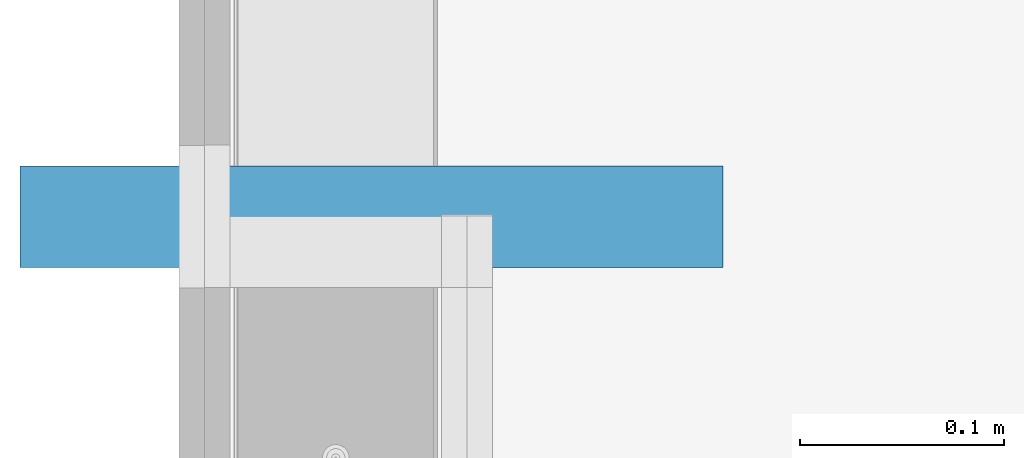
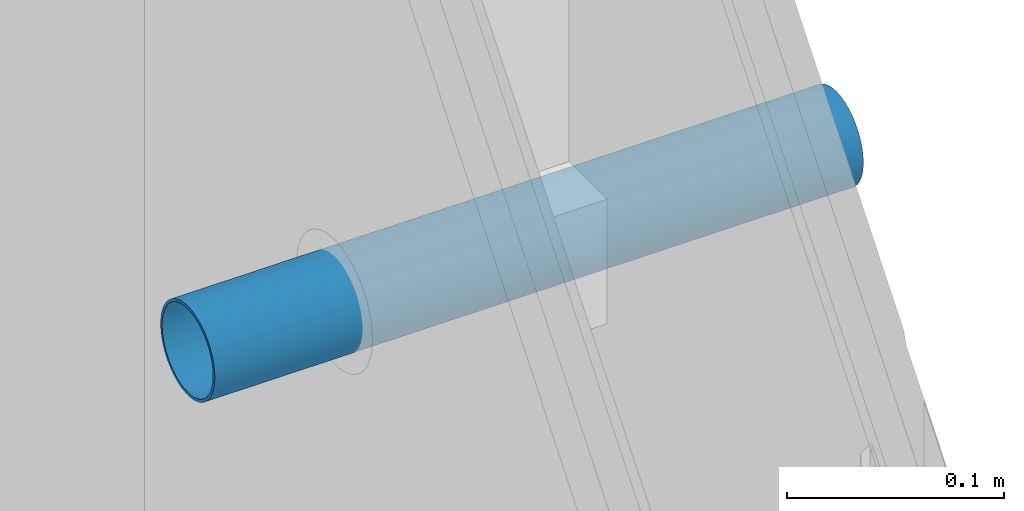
# One storey, part 8 of 92: 1 wall.
"""IFC2X3 building model written with IfcOpenShell, lengths in millimetres."""

from ifc_helpers import new_model, si_unit, frame, origin_with_axes, place, context, subcontext, project, spatial, faceted_brep, material, type_object, element, save


model = new_model("IFC2X3")

# Units and contexts
model_context = context("Model", 3, world=origin_with_axes())
body_context = subcontext(model_context, "Body", "Model", "MODEL_VIEW")
ifc_project = project(units=[si_unit("LENGTHUNIT", "METRE", prefix="MILLI"), si_unit("AREAUNIT", "SQUARE_METRE"), si_unit("VOLUMEUNIT", "CUBIC_METRE")], contexts=[model_context])

# Site, building, storey
site_placement = place(None, origin_with_axes())
site = spatial("IfcSite", under=ifc_project, at=site_placement, Name="Default Site", CompositionType="ELEMENT")
building_placement = place(site_placement, origin_with_axes())
building = spatial("IfcBuilding", under=site, at=building_placement, Name="Default Building", CompositionType="ELEMENT")
storey_placement = place(building_placement, origin_with_axes())
storey = spatial("IfcBuildingStorey", under=building, at=storey_placement, Name="Default Building Storey", CompositionType="ELEMENT", Elevation=0.0)

# Wall
ifc_material = material(Name="M00_Soft_Cloud")
wall_type = type_object("IfcWallType", Name="Przewód instalacyjny - okrągły#1", PredefinedType="NOTDEFINED")
wall_placement = place(storey_placement, frame((-78.03141511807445, 990.2062754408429, 579.9538865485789), z_axis=(0.0, 0.0, 1.0), x_axis=(-4.718447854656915e-16, 1.0, 0.0)))
element("IfcWall", 1, at=wall_placement, inside=storey, type_object=wall_type, material=ifc_material, Name="Przewód instalacyjny - okrągły", context=body_context, shape_type="Brep", body=[
    faceted_brep([(49.84632578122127, -345.0390512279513, 25.2052880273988), (51.416081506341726, -345.0390512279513, 25.05333141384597), (52.97965642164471, -345.0390512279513, 25.201057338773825), (54.530870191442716, -345.0390512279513, 25.446669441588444), (56.0636008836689, -345.0390512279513, 25.789198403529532), (57.571799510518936, -345.0390512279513, 26.227292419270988), (59.04951390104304, -345.0390512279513, 26.759222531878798), (60.490912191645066, -345.0390512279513, 27.382889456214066), (61.89030584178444, -345.0390512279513, 28.09583186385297), (63.242172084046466, -345.0390512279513, 28.89523609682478), (64.54117571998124, -345.0390512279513, 29.777947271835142), (65.7821901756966, -345.0390512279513, 30.74048173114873), (66.96031773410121, -345.0390512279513, 31.779040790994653), (68.0709088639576, -345.0390512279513, 32.889525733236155), (69.1095805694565, -345.0390512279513, 34.0675539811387), (70.07223368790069, -345.0390512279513, 35.30847639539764), (70.95506906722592, -345.0390512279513, 36.607395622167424), (71.7546025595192, -345.0390512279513, 37.95918542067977), (72.46767877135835, -345.0390512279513, 39.358510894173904), (73.0914835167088, -345.0390512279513, 40.799849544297), (73.62355492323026, -345.0390512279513, 42.277513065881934), (74.0617931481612, -345.0390512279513, 43.78566979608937), (74.40446866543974, -345.0390512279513, 45.31836772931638), (74.65022909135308, -345.0390512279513, 46.86955800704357), (74.79810452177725, -345.0390512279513, 48.433118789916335), (74.847511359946, -345.0390512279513, 50.002879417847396), (74.79825461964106, -345.0390512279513, 51.57264476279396), (74.65052869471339, -345.0390512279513, 53.136219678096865), (74.40491659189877, -345.0390512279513, 54.687433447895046), (74.0623876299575, -345.0390512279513, 56.22016414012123), (73.62429361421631, -345.0390512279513, 57.72836276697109), (73.0923635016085, -345.0390512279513, 59.20607715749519), (72.46869657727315, -345.0390512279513, 60.64747544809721), (71.75575416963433, -345.0390512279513, 62.04686909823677), (70.95634993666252, -345.0390512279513, 63.398735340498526), (70.07363876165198, -345.0390512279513, 64.69773897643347), (69.11110430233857, -345.0390512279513, 65.93875343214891), (68.07254524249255, -345.0390512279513, 67.11688099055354), (66.96206030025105, -345.0390512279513, 68.22747212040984), (65.78403205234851, -345.0390512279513, 69.26614382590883), (64.54310963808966, -345.0390512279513, 70.22879694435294), (63.24419041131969, -345.0390512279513, 71.11163232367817), (61.892400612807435, -345.0390512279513, 71.91116581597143), (60.493075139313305, -345.0390512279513, 72.62424202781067), (59.05173648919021, -345.0390512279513, 73.2480467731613), (57.574072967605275, -345.0390512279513, 73.78011817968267), (56.06591623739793, -345.0390512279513, 74.21835640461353), (54.533218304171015, -345.0390512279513, 74.56103192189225), (52.982028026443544, -345.0390512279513, 74.80679234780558), (51.41846724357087, -345.0390512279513, 74.95466777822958), (49.84870661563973, -345.0390512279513, 75.00407461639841), (48.27894127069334, -345.0390512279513, 74.95481787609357), (46.71536635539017, -345.0390512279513, 74.8070919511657), (45.16415258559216, -345.0390512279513, 74.56147984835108), (43.63142189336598, -345.0390512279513, 74.2189508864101), (42.12322326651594, -345.0390512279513, 73.78085687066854), (40.64550887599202, -345.0390512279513, 73.24892675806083), (39.20411058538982, -345.0390512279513, 72.62525983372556), (37.80471693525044, -345.0390512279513, 71.91231742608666), (36.45285069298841, -345.0390512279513, 71.11291319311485), (35.153847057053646, -345.0390512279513, 70.23020201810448), (33.91283260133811, -345.0390512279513, 69.26766755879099), (32.734705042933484, -345.0390512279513, 68.22910849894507), (31.62411391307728, -345.0390512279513, 67.11862355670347), (30.58544220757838, -345.0390512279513, 65.94059530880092), (29.622789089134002, -345.0390512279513, 64.69967289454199), (28.739953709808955, -345.0390512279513, 63.4007536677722), (27.940420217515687, -345.0390512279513, 62.04896386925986), (27.227344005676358, -345.0390512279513, 60.64963839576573), (26.603539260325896, -345.0390512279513, 59.208299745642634), (26.071467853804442, -345.0390512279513, 57.73063622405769), (25.633229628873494, -345.0390512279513, 56.22247949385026), (25.290554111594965, -345.0390512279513, 54.68978156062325), (25.044793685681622, -345.0390512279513, 53.13859128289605), (24.896918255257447, -345.0390512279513, 51.575030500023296), (24.84751141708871, -345.0390512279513, 50.00526987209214), (24.896768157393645, -345.0390512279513, 48.43550452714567), (25.044494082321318, -345.0390512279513, 46.871929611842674), (25.290106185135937, -345.0390512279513, 45.32071584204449), (25.632635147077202, -345.0390512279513, 43.78798514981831), (26.07072916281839, -345.0390512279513, 42.27978652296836), (26.6026592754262, -345.0390512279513, 40.802072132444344), (27.22632619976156, -345.0390512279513, 39.360673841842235), (27.93926860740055, -345.0390512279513, 37.96128019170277), (28.738672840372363, -345.0390512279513, 36.60941394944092), (29.621384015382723, -345.0390512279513, 35.310410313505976), (30.58391847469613, -345.0390512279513, 34.069395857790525), (31.622477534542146, -345.0390512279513, 32.89126829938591), (32.73296247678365, -345.0390512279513, 31.780677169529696), (33.910990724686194, -345.0390512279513, 30.742005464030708), (35.15191313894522, -345.0390512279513, 29.77935234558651), (36.45083236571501, -345.0390512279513, 28.89651696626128), (37.802622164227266, -345.0390512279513, 28.096983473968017), (39.201947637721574, -345.0390512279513, 27.383907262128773), (40.64328628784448, -345.0390512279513, 26.760102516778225), (42.120949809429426, -345.0390512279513, 26.22803111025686), (43.62910653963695, -345.0390512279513, 25.789792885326), (45.161804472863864, -345.0390512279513, 25.44711736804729), (46.71299475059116, -345.0390512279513, 25.201356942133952), (48.27655553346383, -345.0390512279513, 25.053481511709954), (48.274965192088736, -345.0390512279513, 26.56032545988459), (46.90115859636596, -345.0390512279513, 26.69025468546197), (45.44308568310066, -345.0390512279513, 26.921262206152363), (44.002395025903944, -345.0390512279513, 27.243367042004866), (42.58477237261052, -345.0390512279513, 27.655297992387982), (41.19581243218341, -345.0390512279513, 28.155429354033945), (39.8409967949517, -345.0390512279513, 28.74178733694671), (38.52567229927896, -345.0390512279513, 29.412057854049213), (37.255029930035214, -345.0390512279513, 30.16359565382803), (36.034084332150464, -345.0390512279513, 30.993434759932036), (34.86765402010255, -345.0390512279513, 31.89830017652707), (33.76034236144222, -345.0390512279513, 32.87462081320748), (32.716519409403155, -345.0390512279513, 33.91854357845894), (31.740304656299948, -345.0390512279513, 35.02594858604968), (30.835550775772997, -345.0390512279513, 36.19246541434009), (30.00582841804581, -345.0390512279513, 37.413490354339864), (29.254412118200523, -345.0390512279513, 38.68420457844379), (28.584267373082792, -345.0390512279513, 39.999593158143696), (27.998038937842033, -345.0390512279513, 41.35446485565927), (27.498040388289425, -345.0390512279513, 42.7434726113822), (27.086244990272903, -345.0390512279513, 44.16113464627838), (26.76427791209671, -345.0390512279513, 45.6018560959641), (26.53340981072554, -345.0390512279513, 47.05995109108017), (26.39455181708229, -345.0390512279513, 48.52966519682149), (26.348251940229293, -345.0390512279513, 50.005198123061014), (26.394692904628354, -345.0390512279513, 51.480726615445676), (26.533691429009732, -345.0390512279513, 52.95042743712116), (26.764698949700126, -345.0390512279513, 54.40850035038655), (27.08680378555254, -345.0390512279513, 55.84919100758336), (27.498734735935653, -345.0390512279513, 57.266813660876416), (27.99886609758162, -345.0390512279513, 58.65577360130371), (28.58522408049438, -345.0390512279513, 60.01058923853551), (29.255494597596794, -345.0390512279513, 61.32591373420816), (30.007032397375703, -345.0390512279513, 62.59655610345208), (30.83687150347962, -345.0390512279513, 63.81750170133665), (31.741736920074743, -345.0390512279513, 64.98393201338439), (32.71805755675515, -345.0390512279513, 66.0912436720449), (33.76198032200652, -345.0390512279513, 67.13506662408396), (34.86938532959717, -345.0390512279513, 68.11128137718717), (36.035902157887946, -345.0390512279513, 69.01603525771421), (37.256927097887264, -345.0390512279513, 69.84575761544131), (38.52764132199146, -345.0390512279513, 70.59717391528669), (39.84302990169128, -345.0390512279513, 71.26731866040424), (41.19790159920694, -345.0390512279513, 71.85354709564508), (42.586909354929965, -345.0390512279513, 72.3535456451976), (44.00457138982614, -345.0390512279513, 72.7653410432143), (45.44529283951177, -345.0390512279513, 73.08730812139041), (46.90338783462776, -345.0390512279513, 73.3181762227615), (48.37310194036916, -345.0390512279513, 73.45703421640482), (49.8486348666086, -345.0390512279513, 73.50333409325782), (51.324163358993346, -345.0390512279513, 73.45689312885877), (52.79386418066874, -345.0390512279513, 73.31789460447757), (54.25193709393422, -345.0390512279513, 73.08688708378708), (55.692627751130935, -345.0390512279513, 72.76478224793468), (57.110250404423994, -345.0390512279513, 72.35285129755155), (58.49921034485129, -345.0390512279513, 71.8527199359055), (59.85402598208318, -345.0390512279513, 71.26636195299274), (61.16935047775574, -345.0390512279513, 70.59609143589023), (62.43999284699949, -345.0390512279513, 69.84455363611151), (63.660938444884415, -345.0390512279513, 69.01471453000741), (64.82736875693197, -345.0390512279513, 68.10984911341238), (65.93468041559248, -345.0390512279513, 67.13352847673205), (66.97850336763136, -345.0390512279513, 66.0896057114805), (67.95471812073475, -345.0390512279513, 64.98220070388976), (68.85947200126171, -345.0390512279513, 63.81568387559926), (69.68919435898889, -345.0390512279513, 62.59465893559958), (70.44061065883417, -345.0390512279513, 61.32394471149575), (71.11075540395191, -345.0390512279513, 60.00855613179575), (71.69698383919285, -345.0390512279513, 58.653684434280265), (72.19698238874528, -345.0390512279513, 57.26467667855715), (72.60877778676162, -345.0390512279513, 55.84701464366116), (72.93074486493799, -345.0390512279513, 54.406293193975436), (73.16161296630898, -345.0390512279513, 52.948198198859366), (73.3004709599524, -345.0390512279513, 51.47848409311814), (73.3467708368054, -345.0390512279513, 50.00295116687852), (73.30032987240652, -345.0390512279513, 48.52742267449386), (73.16133134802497, -345.0390512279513, 47.05772185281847), (72.93032382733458, -345.0390512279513, 45.59964893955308), (72.60821899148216, -345.0390512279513, 44.158958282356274), (72.19628804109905, -345.0390512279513, 42.741335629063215), (71.69615667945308, -345.0390512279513, 41.35237568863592), (71.1097986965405, -345.0390512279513, 39.99756005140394), (70.4395281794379, -345.0390512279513, 38.68223555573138), (69.68799037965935, -345.0390512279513, 37.411593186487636), (68.85815127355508, -345.0390512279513, 36.19064758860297), (67.95328585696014, -345.0390512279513, 35.02421727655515), (66.97696522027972, -345.0390512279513, 33.91690561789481), (65.93304245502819, -345.0390512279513, 32.87308266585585), (64.82563744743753, -345.0390512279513, 31.896867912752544), (63.65912061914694, -345.0390512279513, 30.992114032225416), (62.43809567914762, -345.0390512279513, 30.162391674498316), (61.16738145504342, -345.0390512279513, 29.410975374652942), (59.8519928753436, -345.0390512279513, 28.7408306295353), (58.49712117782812, -345.0390512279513, 28.15460219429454), (57.108113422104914, -345.0390512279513, 27.65460364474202), (55.690451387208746, -345.0390512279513, 27.242808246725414), (54.24972993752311, -345.0390512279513, 26.920841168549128), (52.791634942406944, -345.0390512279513, 26.689973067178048), (51.417815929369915, -345.0390512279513, 26.560175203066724), (49.846397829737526, -345.0390512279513, 26.712292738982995), (51.416081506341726, -9.587886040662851e-14, 25.05333141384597), (49.84632578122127, -9.587886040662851e-14, 25.2052880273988), (48.27655553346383, -9.587886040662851e-14, 25.053481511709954), (46.71299475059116, -9.517386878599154e-14, 25.201356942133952), (45.161804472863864, -9.517386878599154e-14, 25.44711736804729), (43.62910653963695, -9.517386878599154e-14, 25.789792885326), (42.120949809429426, -9.517386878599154e-14, 26.22803111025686), (40.64328628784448, -9.446887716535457e-14, 26.760102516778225), (39.201947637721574, -9.446887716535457e-14, 27.383907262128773), (37.802622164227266, -9.446887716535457e-14, 28.096983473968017), (36.45083236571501, -9.446887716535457e-14, 28.89651696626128), (35.15191313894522, -9.376388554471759e-14, 29.77935234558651), (33.910990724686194, -9.376388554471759e-14, 30.742005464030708), (32.73296247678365, -9.376388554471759e-14, 31.780677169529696), (31.622477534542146, -9.376388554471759e-14, 32.89126829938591), (30.58391847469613, -9.376388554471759e-14, 34.069395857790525), (29.621384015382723, -9.376388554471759e-14, 35.310410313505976), (28.738672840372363, -9.305889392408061e-14, 36.60941394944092), (27.93926860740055, -9.305889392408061e-14, 37.96128019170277), (27.22632619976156, -9.305889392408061e-14, 39.360673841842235), (26.6026592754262, -9.305889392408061e-14, 40.802072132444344), (26.07072916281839, -9.305889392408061e-14, 42.27978652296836), (25.632635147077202, -9.305889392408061e-14, 43.78798514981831), (25.290106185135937, -9.305889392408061e-14, 45.32071584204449), (25.044494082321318, -9.305889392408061e-14, 46.871929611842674), (24.896768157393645, -9.305889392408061e-14, 48.43550452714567), (24.84751141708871, -9.305889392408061e-14, 50.00526987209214), (24.896918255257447, -9.305889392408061e-14, 51.575030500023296), (25.044793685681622, -9.305889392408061e-14, 53.13859128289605), (25.290554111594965, -9.305889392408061e-14, 54.68978156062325), (25.633229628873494, -9.305889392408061e-14, 56.22247949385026), (26.071467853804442, -9.305889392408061e-14, 57.73063622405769), (26.603539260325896, -9.305889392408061e-14, 59.208299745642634), (27.227344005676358, -9.305889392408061e-14, 60.64963839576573), (27.940420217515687, -9.305889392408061e-14, 62.04896386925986), (28.739953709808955, -9.305889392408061e-14, 63.4007536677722), (29.622789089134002, -9.376388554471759e-14, 64.69967289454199), (30.58544220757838, -9.376388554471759e-14, 65.94059530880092), (31.62411391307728, -9.376388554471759e-14, 67.11862355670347), (32.734705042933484, -9.376388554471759e-14, 68.22910849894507), (33.91283260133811, -9.376388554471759e-14, 69.26766755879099), (35.153847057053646, -9.376388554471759e-14, 70.23020201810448), (36.45285069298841, -9.446887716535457e-14, 71.11291319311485), (37.80471693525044, -9.446887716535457e-14, 71.91231742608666), (39.20411058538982, -9.446887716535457e-14, 72.62525983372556), (40.64550887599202, -9.446887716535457e-14, 73.24892675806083), (42.12322326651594, -9.517386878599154e-14, 73.78085687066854), (43.63142189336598, -9.517386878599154e-14, 74.2189508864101), (45.16415258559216, -9.517386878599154e-14, 74.56147984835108), (46.71536635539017, -9.517386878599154e-14, 74.8070919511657), (48.27894127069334, -9.587886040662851e-14, 74.95481787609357), (49.84870661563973, -9.587886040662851e-14, 75.00407461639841), (51.41846724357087, -9.587886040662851e-14, 74.95466777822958), (52.982028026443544, -9.587886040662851e-14, 74.80679234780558), (54.533218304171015, -9.658385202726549e-14, 74.56103192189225), (56.06591623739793, -9.658385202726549e-14, 74.21835640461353), (57.574072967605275, -9.658385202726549e-14, 73.78011817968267), (59.05173648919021, -9.658385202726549e-14, 73.2480467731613), (60.493075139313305, -9.658385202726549e-14, 72.62424202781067), (61.892400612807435, -9.728884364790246e-14, 71.91116581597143), (63.24419041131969, -9.728884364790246e-14, 71.11163232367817), (64.54310963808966, -9.728884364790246e-14, 70.22879694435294), (65.78403205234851, -9.728884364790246e-14, 69.26614382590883), (66.96206030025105, -9.728884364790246e-14, 68.22747212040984), (68.07254524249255, -9.799383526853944e-14, 67.11688099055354), (69.11110430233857, -9.799383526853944e-14, 65.93875343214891), (70.07363876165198, -9.799383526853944e-14, 64.69773897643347), (70.95634993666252, -9.799383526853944e-14, 63.398735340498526), (71.75575416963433, -9.799383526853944e-14, 62.04686909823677), (72.46869657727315, -9.799383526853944e-14, 60.64747544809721), (73.0923635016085, -9.799383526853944e-14, 59.20607715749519), (73.62429361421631, -9.869882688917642e-14, 57.72836276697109), (74.0623876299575, -9.869882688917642e-14, 56.22016414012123), (74.40491659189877, -9.869882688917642e-14, 54.687433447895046), (74.65052869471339, -9.869882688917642e-14, 53.136219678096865), (74.79825461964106, -9.869882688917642e-14, 51.57264476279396), (74.847511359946, -9.869882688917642e-14, 50.002879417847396), (74.79810452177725, -9.869882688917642e-14, 48.433118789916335), (74.65022909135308, -9.869882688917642e-14, 46.86955800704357), (74.40446866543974, -9.869882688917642e-14, 45.31836772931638), (74.0617931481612, -9.869882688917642e-14, 43.78566979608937), (73.62355492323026, -9.869882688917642e-14, 42.277513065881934), (73.0914835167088, -9.799383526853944e-14, 40.799849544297), (72.46767877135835, -9.799383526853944e-14, 39.358510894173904), (71.7546025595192, -9.799383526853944e-14, 37.95918542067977), (70.95506906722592, -9.799383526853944e-14, 36.607395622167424), (70.07223368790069, -9.799383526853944e-14, 35.30847639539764), (69.1095805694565, -9.799383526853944e-14, 34.0675539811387), (68.0709088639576, -9.799383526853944e-14, 32.889525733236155), (66.96031773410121, -9.728884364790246e-14, 31.779040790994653), (65.7821901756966, -9.728884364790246e-14, 30.74048173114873), (64.54117571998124, -9.728884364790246e-14, 29.777947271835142), (63.242172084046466, -9.728884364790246e-14, 28.89523609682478), (61.89030584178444, -9.728884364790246e-14, 28.09583186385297), (60.490912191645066, -9.658385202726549e-14, 27.382889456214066), (59.04951390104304, -9.658385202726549e-14, 26.759222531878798), (57.571799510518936, -9.658385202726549e-14, 26.227292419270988), (56.0636008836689, -9.658385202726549e-14, 25.789198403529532), (54.530870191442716, -9.658385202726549e-14, 25.446669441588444), (52.97965642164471, -9.587886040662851e-14, 25.201057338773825), (46.90115859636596, -9.517386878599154e-14, 26.69025468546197), (48.274965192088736, -9.587886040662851e-14, 26.56032545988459), (49.846397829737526, -9.587886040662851e-14, 26.712292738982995), (51.417815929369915, -9.587886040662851e-14, 26.560175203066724), (52.791634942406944, -9.587886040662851e-14, 26.689973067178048), (54.24972993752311, -9.587886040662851e-14, 26.920841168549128), (55.690451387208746, -9.658385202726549e-14, 27.242808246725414), (57.108113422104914, -9.658385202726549e-14, 27.65460364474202), (58.49712117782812, -9.658385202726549e-14, 28.15460219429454), (59.8519928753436, -9.658385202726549e-14, 28.7408306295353), (61.16738145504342, -9.728884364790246e-14, 29.410975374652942), (62.43809567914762, -9.728884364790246e-14, 30.162391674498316), (63.65912061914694, -9.728884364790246e-14, 30.992114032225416), (64.82563744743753, -9.728884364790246e-14, 31.896867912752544), (65.93304245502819, -9.728884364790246e-14, 32.87308266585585), (66.97696522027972, -9.799383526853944e-14, 33.91690561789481), (67.95328585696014, -9.799383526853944e-14, 35.02421727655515), (68.85815127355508, -9.799383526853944e-14, 36.19064758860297), (69.68799037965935, -9.799383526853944e-14, 37.411593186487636), (70.4395281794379, -9.799383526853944e-14, 38.68223555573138), (71.1097986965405, -9.799383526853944e-14, 39.99756005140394), (71.69615667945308, -9.799383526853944e-14, 41.35237568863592), (72.19628804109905, -9.799383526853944e-14, 42.741335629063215), (72.60821899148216, -9.799383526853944e-14, 44.158958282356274), (72.93032382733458, -9.799383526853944e-14, 45.59964893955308), (73.16133134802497, -9.799383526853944e-14, 47.05772185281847), (73.30032987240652, -9.799383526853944e-14, 48.52742267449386), (73.3467708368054, -9.869882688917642e-14, 50.00295116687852), (73.3004709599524, -9.799383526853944e-14, 51.47848409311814), (73.16161296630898, -9.799383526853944e-14, 52.948198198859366), (72.93074486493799, -9.799383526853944e-14, 54.406293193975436), (72.60877778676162, -9.799383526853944e-14, 55.84701464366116), (72.19698238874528, -9.799383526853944e-14, 57.26467667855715), (71.69698383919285, -9.799383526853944e-14, 58.653684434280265), (71.11075540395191, -9.799383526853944e-14, 60.00855613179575), (70.44061065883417, -9.799383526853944e-14, 61.32394471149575), (69.68919435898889, -9.799383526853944e-14, 62.59465893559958), (68.85947200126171, -9.799383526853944e-14, 63.81568387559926), (67.95471812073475, -9.799383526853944e-14, 64.98220070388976), (66.97850336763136, -9.799383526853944e-14, 66.0896057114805), (65.93468041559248, -9.728884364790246e-14, 67.13352847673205), (64.82736875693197, -9.728884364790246e-14, 68.10984911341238), (63.660938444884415, -9.728884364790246e-14, 69.01471453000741), (62.43999284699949, -9.728884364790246e-14, 69.84455363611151), (61.16935047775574, -9.728884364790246e-14, 70.59609143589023), (59.85402598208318, -9.658385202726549e-14, 71.26636195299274), (58.49921034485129, -9.658385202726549e-14, 71.8527199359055), (57.110250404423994, -9.658385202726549e-14, 72.35285129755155), (55.692627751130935, -9.658385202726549e-14, 72.76478224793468), (54.25193709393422, -9.587886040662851e-14, 73.08688708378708), (52.79386418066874, -9.587886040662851e-14, 73.31789460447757), (51.324163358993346, -9.587886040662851e-14, 73.45689312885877), (49.8486348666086, -9.587886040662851e-14, 73.50333409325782), (48.37310194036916, -9.587886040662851e-14, 73.45703421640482), (46.90338783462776, -9.517386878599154e-14, 73.3181762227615), (45.44529283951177, -9.517386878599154e-14, 73.08730812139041), (44.00457138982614, -9.517386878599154e-14, 72.7653410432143), (42.586909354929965, -9.517386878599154e-14, 72.3535456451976), (41.19790159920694, -9.446887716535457e-14, 71.85354709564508), (39.84302990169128, -9.446887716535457e-14, 71.26731866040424), (38.52764132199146, -9.446887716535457e-14, 70.59717391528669), (37.256927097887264, -9.446887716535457e-14, 69.84575761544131), (36.035902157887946, -9.446887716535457e-14, 69.01603525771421), (34.86938532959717, -9.376388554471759e-14, 68.11128137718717), (33.76198032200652, -9.376388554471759e-14, 67.13506662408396), (32.71805755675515, -9.376388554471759e-14, 66.0912436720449), (31.741736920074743, -9.376388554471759e-14, 64.98393201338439), (30.83687150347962, -9.376388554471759e-14, 63.81750170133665), (30.007032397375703, -9.376388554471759e-14, 62.59655610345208), (29.255494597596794, -9.376388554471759e-14, 61.32591373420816), (28.58522408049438, -9.305889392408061e-14, 60.01058923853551), (27.99886609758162, -9.305889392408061e-14, 58.65577360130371), (27.498734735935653, -9.305889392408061e-14, 57.266813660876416), (27.08680378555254, -9.305889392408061e-14, 55.84919100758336), (26.764698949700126, -9.305889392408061e-14, 54.40850035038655), (26.533691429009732, -9.305889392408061e-14, 52.95042743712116), (26.394692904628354, -9.305889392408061e-14, 51.480726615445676), (26.348251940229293, -9.305889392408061e-14, 50.005198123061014), (26.39455181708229, -9.305889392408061e-14, 48.52966519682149), (26.53340981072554, -9.305889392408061e-14, 47.05995109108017), (26.76427791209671, -9.305889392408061e-14, 45.6018560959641), (27.086244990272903, -9.305889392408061e-14, 44.16113464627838), (27.498040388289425, -9.305889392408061e-14, 42.7434726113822), (27.998038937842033, -9.305889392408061e-14, 41.35446485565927), (28.584267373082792, -9.305889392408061e-14, 39.999593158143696), (29.254412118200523, -9.376388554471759e-14, 38.68420457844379), (30.00582841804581, -9.376388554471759e-14, 37.413490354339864), (30.835550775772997, -9.376388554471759e-14, 36.19246541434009), (31.740304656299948, -9.376388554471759e-14, 35.02594858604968), (32.716519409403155, -9.376388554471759e-14, 33.91854357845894), (33.76034236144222, -9.376388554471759e-14, 32.87462081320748), (34.86765402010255, -9.376388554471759e-14, 31.89830017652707), (36.034084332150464, -9.446887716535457e-14, 30.993434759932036), (37.255029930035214, -9.446887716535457e-14, 30.16359565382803), (38.52567229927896, -9.446887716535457e-14, 29.412057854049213), (39.8409967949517, -9.446887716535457e-14, 28.74178733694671), (41.19581243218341, -9.446887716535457e-14, 28.155429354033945), (42.58477237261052, -9.517386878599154e-14, 27.655297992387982), (44.002395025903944, -9.517386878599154e-14, 27.243367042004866), (45.44308568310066, -9.517386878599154e-14, 26.921262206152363)], [[[0, 1, 2, 3, 4, 5, 6, 7, 8, 9, 10, 11, 12, 13, 14, 15, 16, 17, 18, 19, 20, 21, 22, 23, 24, 25, 26, 27, 28, 29, 30, 31, 32, 33, 34, 35, 36, 37, 38, 39, 40, 41, 42, 43, 44, 45, 46, 47, 48, 49, 50, 51, 52, 53, 54, 55, 56, 57, 58, 59, 60, 61, 62, 63, 64, 65, 66, 67, 68, 69, 70, 71, 72, 73, 74, 75, 76, 77, 78, 79, 80, 81, 82, 83, 84, 85, 86, 87, 88, 89, 90, 91, 92, 93, 94, 95, 96, 97, 98, 99], [100, 101, 102, 103, 104, 105, 106, 107, 108, 109, 110, 111, 112, 113, 114, 115, 116, 117, 118, 119, 120, 121, 122, 123, 124, 125, 126, 127, 128, 129, 130, 131, 132, 133, 134, 135, 136, 137, 138, 139, 140, 141, 142, 143, 144, 145, 146, 147, 148, 149, 150, 151, 152, 153, 154, 155, 156, 157, 158, 159, 160, 161, 162, 163, 164, 165, 166, 167, 168, 169, 170, 171, 172, 173, 174, 175, 176, 177, 178, 179, 180, 181, 182, 183, 184, 185, 186, 187, 188, 189, 190, 191, 192, 193, 194, 195, 196, 197, 198, 199]], [[200, 201, 202, 203, 204, 205, 206, 207, 208, 209, 210, 211, 212, 213, 214, 215, 216, 217, 218, 219, 220, 221, 222, 223, 224, 225, 226, 227, 228, 229, 230, 231, 232, 233, 234, 235, 236, 237, 238, 239, 240, 241, 242, 243, 244, 245, 246, 247, 248, 249, 250, 251, 252, 253, 254, 255, 256, 257, 258, 259, 260, 261, 262, 263, 264, 265, 266, 267, 268, 269, 270, 271, 272, 273, 274, 275, 276, 277, 278, 279, 280, 281, 282, 283, 284, 285, 286, 287, 288, 289, 290, 291, 292, 293, 294, 295, 296, 297, 298, 299], [300, 301, 302, 303, 304, 305, 306, 307, 308, 309, 310, 311, 312, 313, 314, 315, 316, 317, 318, 319, 320, 321, 322, 323, 324, 325, 326, 327, 328, 329, 330, 331, 332, 333, 334, 335, 336, 337, 338, 339, 340, 341, 342, 343, 344, 345, 346, 347, 348, 349, 350, 351, 352, 353, 354, 355, 356, 357, 358, 359, 360, 361, 362, 363, 364, 365, 366, 367, 368, 369, 370, 371, 372, 373, 374, 375, 376, 377, 378, 379, 380, 381, 382, 383, 384, 385, 386, 387, 388, 389, 390, 391, 392, 393, 394, 395, 396, 397, 398, 399]], [[1, 0, 201, 200]], [[2, 1, 200, 299]], [[3, 2, 299, 298]], [[4, 3, 298, 297]], [[5, 4, 297, 296]], [[6, 5, 296, 295]], [[7, 6, 295, 294]], [[8, 7, 294, 293]], [[9, 8, 293, 292]], [[10, 9, 292, 291]], [[11, 10, 291, 290]], [[12, 11, 290, 289]], [[13, 12, 289, 288]], [[14, 13, 288, 287]], [[15, 14, 287, 286]], [[16, 15, 286, 285]], [[17, 16, 285, 284]], [[18, 17, 284, 283]], [[19, 18, 283, 282]], [[20, 19, 282, 281]], [[21, 20, 281, 280]], [[22, 21, 280, 279]], [[23, 22, 279, 278]], [[24, 23, 278, 277]], [[25, 24, 277, 276]], [[26, 25, 276, 275]], [[27, 26, 275, 274]], [[28, 27, 274, 273]], [[29, 28, 273, 272]], [[30, 29, 272, 271]], [[31, 30, 271, 270]], [[32, 31, 270, 269]], [[33, 32, 269, 268]], [[34, 33, 268, 267]], [[35, 34, 267, 266]], [[36, 35, 266, 265]], [[37, 36, 265, 264]], [[38, 37, 264, 263]], [[39, 38, 263, 262]], [[40, 39, 262, 261]], [[41, 40, 261, 260]], [[42, 41, 260, 259]], [[43, 42, 259, 258]], [[44, 43, 258, 257]], [[45, 44, 257, 256]], [[46, 45, 256, 255]], [[47, 46, 255, 254]], [[48, 47, 254, 253]], [[49, 48, 253, 252]], [[50, 49, 252, 251]], [[51, 50, 251, 250]], [[52, 51, 250, 249]], [[53, 52, 249, 248]], [[54, 53, 248, 247]], [[55, 54, 247, 246]], [[56, 55, 246, 245]], [[57, 56, 245, 244]], [[58, 57, 244, 243]], [[59, 58, 243, 242]], [[60, 59, 242, 241]], [[61, 60, 241, 240]], [[62, 61, 240, 239]], [[63, 62, 239, 238]], [[64, 63, 238, 237]], [[65, 64, 237, 236]], [[66, 65, 236, 235]], [[67, 66, 235, 234]], [[68, 67, 234, 233]], [[69, 68, 233, 232]], [[70, 69, 232, 231]], [[71, 70, 231, 230]], [[72, 71, 230, 229]], [[73, 72, 229, 228]], [[74, 73, 228, 227]], [[75, 74, 227, 226]], [[76, 75, 226, 225]], [[77, 76, 225, 224]], [[78, 77, 224, 223]], [[79, 78, 223, 222]], [[80, 79, 222, 221]], [[81, 80, 221, 220]], [[82, 81, 220, 219]], [[83, 82, 219, 218]], [[84, 83, 218, 217]], [[85, 84, 217, 216]], [[86, 85, 216, 215]], [[87, 86, 215, 214]], [[88, 87, 214, 213]], [[89, 88, 213, 212]], [[90, 89, 212, 211]], [[91, 90, 211, 210]], [[92, 91, 210, 209]], [[93, 92, 209, 208]], [[94, 93, 208, 207]], [[95, 94, 207, 206]], [[96, 95, 206, 205]], [[97, 96, 205, 204]], [[98, 97, 204, 203]], [[99, 98, 203, 202]], [[0, 99, 202, 201]], [[101, 100, 301, 300]], [[102, 101, 300, 399]], [[103, 102, 399, 398]], [[104, 103, 398, 397]], [[105, 104, 397, 396]], [[106, 105, 396, 395]], [[107, 106, 395, 394]], [[108, 107, 394, 393]], [[109, 108, 393, 392]], [[110, 109, 392, 391]], [[111, 110, 391, 390]], [[112, 111, 390, 389]], [[113, 112, 389, 388]], [[114, 113, 388, 387]], [[115, 114, 387, 386]], [[116, 115, 386, 385]], [[117, 116, 385, 384]], [[118, 117, 384, 383]], [[119, 118, 383, 382]], [[120, 119, 382, 381]], [[121, 120, 381, 380]], [[122, 121, 380, 379]], [[123, 122, 379, 378]], [[124, 123, 378, 377]], [[125, 124, 377, 376]], [[126, 125, 376, 375]], [[127, 126, 375, 374]], [[128, 127, 374, 373]], [[129, 128, 373, 372]], [[130, 129, 372, 371]], [[131, 130, 371, 370]], [[132, 131, 370, 369]], [[133, 132, 369, 368]], [[134, 133, 368, 367]], [[135, 134, 367, 366]], [[136, 135, 366, 365]], [[137, 136, 365, 364]], [[138, 137, 364, 363]], [[139, 138, 363, 362]], [[140, 139, 362, 361]], [[141, 140, 361, 360]], [[142, 141, 360, 359]], [[143, 142, 359, 358]], [[144, 143, 358, 357]], [[145, 144, 357, 356]], [[146, 145, 356, 355]], [[147, 146, 355, 354]], [[148, 147, 354, 353]], [[149, 148, 353, 352]], [[150, 149, 352, 351]], [[151, 150, 351, 350]], [[152, 151, 350, 349]], [[153, 152, 349, 348]], [[154, 153, 348, 347]], [[155, 154, 347, 346]], [[156, 155, 346, 345]], [[157, 156, 345, 344]], [[158, 157, 344, 343]], [[159, 158, 343, 342]], [[160, 159, 342, 341]], [[161, 160, 341, 340]], [[162, 161, 340, 339]], [[163, 162, 339, 338]], [[164, 163, 338, 337]], [[165, 164, 337, 336]], [[166, 165, 336, 335]], [[167, 166, 335, 334]], [[168, 167, 334, 333]], [[169, 168, 333, 332]], [[170, 169, 332, 331]], [[171, 170, 331, 330]], [[172, 171, 330, 329]], [[173, 172, 329, 328]], [[174, 173, 328, 327]], [[175, 174, 327, 326]], [[176, 175, 326, 325]], [[177, 176, 325, 324]], [[178, 177, 324, 323]], [[179, 178, 323, 322]], [[180, 179, 322, 321]], [[181, 180, 321, 320]], [[182, 181, 320, 319]], [[183, 182, 319, 318]], [[184, 183, 318, 317]], [[185, 184, 317, 316]], [[186, 185, 316, 315]], [[187, 186, 315, 314]], [[188, 187, 314, 313]], [[189, 188, 313, 312]], [[190, 189, 312, 311]], [[191, 190, 311, 310]], [[192, 191, 310, 309]], [[193, 192, 309, 308]], [[194, 193, 308, 307]], [[195, 194, 307, 306]], [[196, 195, 306, 305]], [[197, 196, 305, 304]], [[198, 197, 304, 303]], [[199, 198, 303, 302]], [[100, 199, 302, 301]]]),
])

save(model, "model.ifc")
